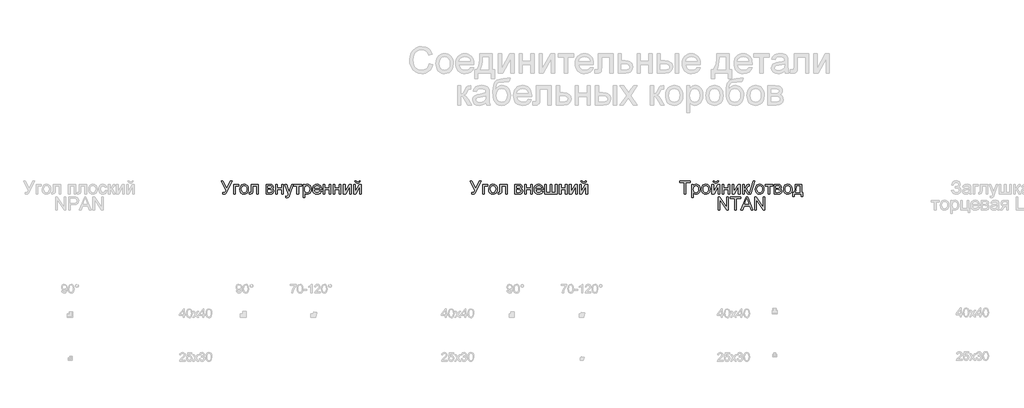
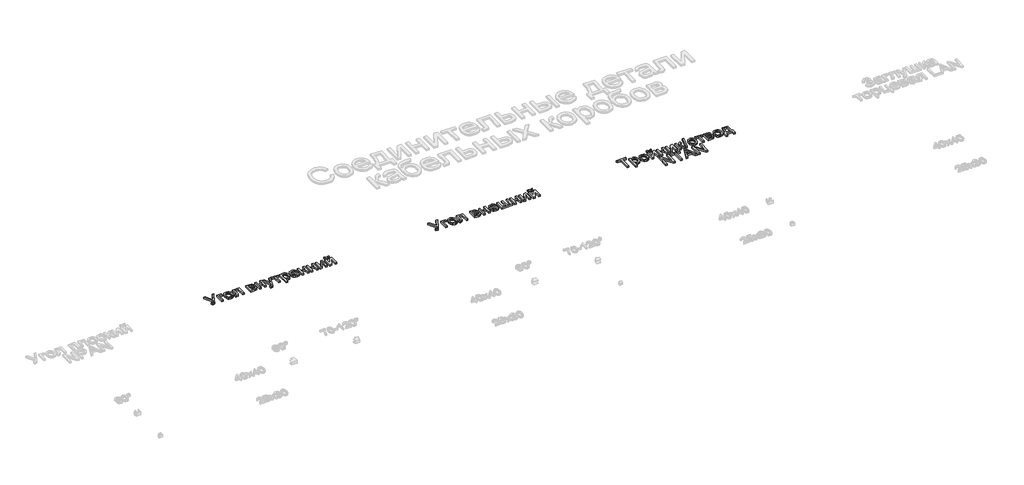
# One storey, part 25 of 28: 3 proxies.
"""IFC4 building model written with IfcOpenShell, lengths in millimetres."""

from ifc_helpers import new_model, si_unit, origin, origin_with_axes, place, context, project, spatial, polyline, outline, extrude, element, save

model = new_model("IFC4")

# Units and contexts
model_context = context("Model", 3, world=origin())
ifc_project = project(units=[si_unit("LENGTHUNIT", "METRE", prefix="MILLI")], contexts=[model_context])

# Site, building, storey
site = spatial("IfcSite", under=ifc_project)
building = spatial("IfcBuilding", under=site)
storey = spatial("IfcBuildingStorey", under=building, Name="Этаж 01", Elevation=0.0)

# Proxies
placement = place(None, origin())
element("IfcBuildingElementProxy", 1, Name="150 мм Arial", ObjectType="150 мм Arial", at=placement, inside=storey, context=model_context, shape_type="SweptSolid", body=[
    extrude(outline(polyline([(15533.6805136, 4604.2826486), (15554.5394228, 4604.2826486), (15599.6049672, 4515.0344766), (15640.1455631, 4604.2826486), (15660.8205312, 4604.2826486), (15603.6148809, 4486.8915039), (15588.0534725, 4458.0495555), (15580.6682415, 4452.9451928), (15570.6526542, 4451.2437386), (15553.6932942, 4453.5981834), (15553.6932942, 4470.0792968), (15568.5189386, 4470.0792968), (15579.5186102, 4474.2731515), (15589.7089415, 4493.3662271), (15533.6805136, 4604.2826486)])), origin_with_axes(), (0.0, 0.0, 1.0), 20.0),
    extrude(outline(polyline([(15676.1244222, 4564.2570875), (15737.3399862, 4564.2570875), (15737.3399862, 4545.4215294), (15694.9599803, 4545.4215294), (15694.9599803, 4453.5981834), (15676.1244222, 4453.5981834), (15676.1244222, 4564.2570875)])), origin_with_axes(), (0.0, 0.0, 1.0), 20.0),
    extrude(outline(polyline([(15746.7577653, 4508.9276355), (15750.8320584, 4535.6082772), (15763.0549376, 4554.3610619), (15778.1564935, 4563.5489147), (15796.2378936, 4566.6115323), (15816.0253464, 4562.8821286), (15831.8304766, 4551.6939174), (15842.1909533, 4533.9298155), (15845.6444456, 4510.4727398), (15844.1177353, 4491.4440436), (15839.5376044, 4476.9586901), (15832.0374103, 4466.1107697), (15821.75051, 4457.9943732), (15809.5322292, 4452.9313973), (15796.2378936, 4451.2437386), (15776.2113175, 4454.9593468), (15760.4245814, 4466.1061712), (15750.1744693, 4484.2427536), (15746.7577653, 4508.9276355)]), holes=[polyline([(15765.5933234, 4508.9644237), (15767.7730242, 4491.9176917), (15774.3121267, 4479.7729873), (15784.1529701, 4472.5027194), (15796.2378936, 4470.0792968), (15808.2676348, 4472.516515), (15818.0900841, 4479.8281696), (15824.6291866, 4492.1338224), (15826.8088874, 4509.5530348), (15824.615391, 4526.1031261), (15818.0349018, 4538.0822836), (15808.198657, 4545.3525515), (15796.2378936, 4547.7759741), (15784.1529701, 4545.3617485), (15774.3121267, 4538.1190718), (15767.7730242, 4526.0019586), (15765.5933234, 4508.9644237)])]), origin_with_axes(), (0.0, 0.0, 1.0), 20.0),
    extrude(outline(polyline([(15876.2522276, 4564.2570875), (15961.0122392, 4564.2570875), (15961.0122392, 4453.708548), (15942.1766811, 4453.708548), (15942.1766811, 4545.4215294), (15895.0877857, 4545.4215294), (15895.0877857, 4492.6304631), (15893.8185928, 4468.276675), (15886.847229, 4457.9943732), (15870.3661156, 4453.5981834), (15855.0622246, 4454.5546766), (15855.0622246, 4472.4337415), (15863.4867223, 4472.4337415), (15872.0031905, 4473.5925698), (15875.406099, 4477.2713898), (15876.2522276, 4493.6973209), (15876.2522276, 4564.2570875)])), origin_with_axes(), (0.0, 0.0, 1.0), 20.0),
    extrude(outline(polyline([(16048.1266957, 4564.2570875), (16089.6237848, 4564.2570875), (16112.3772862, 4561.7370959), (16125.1795796, 4552.5032578), (16130.5322626, 4536.4084205), (16127.2949011, 4523.3302156), (16117.5460282, 4514.004407), (16130.2011688, 4503.7956816), (16135.2411522, 4486.0453754), (16132.0497759, 4471.6887805), (16124.4622097, 4461.5812227), (16112.4508626, 4455.5939432), (16095.9881433, 4453.5981834), (16048.1266957, 4453.5981834), (16048.1266957, 4564.2570875)]), holes=[polyline([(16066.9622539, 4521.8770817), (16085.5770828, 4521.8770817), (16100.9361561, 4522.8335749), (16108.4041606, 4526.6595476), (16111.6967045, 4533.5757291), (16110.2527676, 4539.1951266), (16105.9209571, 4542.8095672), (16086.165694, 4545.4215294), (16066.9622539, 4545.4215294), (16066.9622539, 4521.8770817)]), polyline([(16066.9622539, 4472.4337415), (16090.0652432, 4472.4337415), (16110.5562703, 4475.83665), (16114.7961103, 4480.4765616), (16116.405594, 4487.5904797), (16113.1866265, 4496.6587709), (16104.7989171, 4501.9378775), (16088.2258332, 4503.0415235), (16066.9622539, 4503.0415235), (16066.9622539, 4472.4337415)])]), origin_with_axes(), (0.0, 0.0, 1.0), 20.0),
    extrude(outline(polyline([(16158.7855999, 4564.2570875), (16177.621158, 4564.2570875), (16177.621158, 4521.8770817), (16227.0644982, 4521.8770817), (16227.0644982, 4564.2570875), (16245.9000563, 4564.2570875), (16245.9000563, 4453.5981834), (16227.0644982, 4453.5981834), (16227.0644982, 4503.0415235), (16177.621158, 4503.0415235), (16177.621158, 4453.5981834), (16158.7855999, 4453.5981834), (16158.7855999, 4564.2570875)])), origin_with_axes(), (0.0, 0.0, 1.0), 20.0),
    extrude(outline(polyline([(16274.1533935, 4411.2181775), (16271.7989488, 4429.3547599), (16281.3638806, 4427.6992909), (16290.3034131, 4429.7778242), (16295.7848549, 4435.5719656), (16300.9352028, 4449.4411168), (16302.4067308, 4454.0028536), (16262.3811697, 4564.2570875), (16282.2467974, 4564.2570875), (16303.4735886, 4502.8207943), (16310.8680167, 4478.2462771), (16318.2624448, 4499.9513148), (16340.0778471, 4564.2570875), (16359.796322, 4564.2570875), (16321.2790771, 4450.949433), (16311.2726869, 4426.3749157), (16300.3465916, 4413.0943757), (16285.6681, 4408.8637328), (16274.1533935, 4411.2181775)])), origin_with_axes(), (0.0, 0.0, 1.0), 20.0),
    extrude(outline(polyline([(16365.9767395, 4564.2570875), (16455.4456408, 4564.2570875), (16455.4456408, 4545.4215294), (16420.1289692, 4545.4215294), (16420.1289692, 4453.5981834), (16401.2934111, 4453.5981834), (16401.2934111, 4545.4215294), (16365.9767395, 4545.4215294), (16365.9767395, 4564.2570875)])), origin_with_axes(), (0.0, 0.0, 1.0), 20.0),
    extrude(outline(polyline([(16471.9267541, 4411.2181775), (16471.9267541, 4564.2570875), (16490.7623123, 4564.2570875), (16490.7623123, 4545.7894114), (16503.7853349, 4561.4060021), (16521.3700943, 4566.6115323), (16534.1080084, 4564.7905164), (16545.2456358, 4559.3274688), (16554.313927, 4550.5534832), (16560.8438324, 4538.7996535), (16566.1045449, 4509.773764), (16564.6192214, 4493.6651312), (16560.1632507, 4479.2579525), (16552.8791872, 4467.2833936), (16542.9095851, 4458.4726198), (16531.2983096, 4453.0509589), (16519.0892259, 4451.2437386), (16502.700083, 4456.0813868), (16490.7623123, 4468.3134632), (16490.7623123, 4411.2181775), (16471.9267541, 4411.2181775)]), holes=[polyline([(16490.7623123, 4508.0447187), (16492.7994588, 4491.1589351), (16498.9108985, 4479.349923), (16507.9286059, 4472.3969533), (16518.6845557, 4470.0792968), (16529.6152495, 4472.4797268), (16538.8628832, 4479.6810168), (16545.1674609, 4491.9222902), (16547.2689868, 4509.4426702), (16545.2180446, 4526.2364833), (16539.0652183, 4538.2110423), (16530.0613064, 4545.3847412), (16519.4571079, 4547.7759741), (16508.8115227, 4545.2329899), (16499.4627215, 4537.604037), (16492.9374146, 4525.1282388), (16490.7623123, 4508.0447187)])]), origin_with_axes(), (0.0, 0.0, 1.0), 20.0),
    extrude(outline(polyline([(16664.770496, 4486.5604101), (16683.2381722, 4484.2059654), (16676.5841066, 4470.2908289), (16665.9661125, 4459.8889655), (16651.6233132, 4453.4050453), (16633.794832, 4451.2437386), (16611.6943212, 4454.9731423), (16594.6889759, 4466.1613535), (16583.8456541, 4484.0818052), (16580.2312135, 4508.0079305), (16583.8824423, 4532.7387976), (16594.8361287, 4551.2340649), (16611.6115477, 4562.7671654), (16632.7279742, 4566.6115323), (16653.1868117, 4562.7763625), (16669.5345679, 4551.2708531), (16680.2537295, 4532.812374), (16683.8267834, 4508.1182951), (16683.7164188, 4503.0415235), (16599.0667717, 4503.0415235), (16602.3271259, 4488.9424461), (16609.9008964, 4478.5773708), (16620.8315902, 4472.2038153), (16634.162714, 4470.0792968), (16652.6303902, 4474.0156341), (16664.770496, 4486.5604101)]), holes=[polyline([(16599.0667717, 4521.8770817), (16664.9912252, 4521.8770817), (16662.4436424, 4531.8282897), (16657.4496443, 4538.9468063), (16646.4683668, 4545.5686822), (16632.6543978, 4547.7759741), (16619.9578705, 4546.0147391), (16609.459438, 4540.7310339), (16602.161579, 4532.4950758), (16599.0667717, 4521.8770817)])]), origin_with_axes(), (0.0, 0.0, 1.0), 20.0),
    extrude(outline(polyline([(16702.6623415, 4564.2570875), (16721.4978997, 4564.2570875), (16721.4978997, 4521.8770817), (16770.9412398, 4521.8770817), (16770.9412398, 4564.2570875), (16789.776798, 4564.2570875), (16789.776798, 4453.5981834), (16770.9412398, 4453.5981834), (16770.9412398, 4503.0415235), (16721.4978997, 4503.0415235), (16721.4978997, 4453.5981834), (16702.6623415, 4453.5981834), (16702.6623415, 4564.2570875)])), origin_with_axes(), (0.0, 0.0, 1.0), 20.0),
    extrude(outline(polyline([(16818.0301352, 4564.2570875), (16836.8656934, 4564.2570875), (16836.8656934, 4521.8770817), (16886.3090335, 4521.8770817), (16886.3090335, 4564.2570875), (16905.1445917, 4564.2570875), (16905.1445917, 4453.5981834), (16886.3090335, 4453.5981834), (16886.3090335, 4503.0415235), (16836.8656934, 4503.0415235), (16836.8656934, 4453.5981834), (16818.0301352, 4453.5981834), (16818.0301352, 4564.2570875)])), origin_with_axes(), (0.0, 0.0, 1.0), 20.0),
    extrude(outline(polyline([(16933.3979289, 4564.2570875), (16952.233487, 4564.2570875), (16952.233487, 4479.8649578), (16998.513042, 4564.2570875), (17022.8668301, 4564.2570875), (17022.8668301, 4453.5981834), (17004.031272, 4453.5981834), (17004.031272, 4537.4752783), (16958.0460226, 4453.5981834), (16933.3979289, 4453.5981834), (16933.3979289, 4564.2570875)])), origin_with_axes(), (0.0, 0.0, 1.0), 20.0),
    extrude(outline(polyline([(17051.1201674, 4564.2570875), (17069.9557255, 4564.2570875), (17069.9557255, 4479.8649578), (17116.2352805, 4564.2570875), (17140.5890686, 4564.2570875), (17140.5890686, 4453.5981834), (17121.7535104, 4453.5981834), (17121.7535104, 4537.4752783), (17075.768261, 4453.5981834), (17051.1201674, 4453.5981834), (17051.1201674, 4564.2570875)])), origin_with_axes(), (0.0, 0.0, 1.0), 20.0),
    extrude(outline(polyline([(17112.3357314, 4604.2826486), (17126.4624, 4604.2826486), (17123.422775, 4592.2207177), (17117.3205324, 4583.331769), (17108.4315837, 4577.8549258), (17097.0318404, 4576.0293114), (17084.6618083, 4577.8411302), (17075.0692852, 4583.2765867), (17068.5117887, 4592.1517398), (17065.246836, 4604.2826486), (17079.3735046, 4604.2826486), (17084.6710053, 4593.669253), (17095.3395832, 4590.15598), (17107.0382306, 4593.5588884), (17112.3357314, 4604.2826486)])), origin_with_axes(), (0.0, 0.0, 1.0), 20.0),
])
element("IfcBuildingElementProxy", 2, Name="150 мм Arial", ObjectType="150 мм Arial", at=placement, inside=storey, context=model_context, shape_type="SweptSolid", body=[
    extrude(outline(polyline([(18384.3521983, 4604.2826486), (18405.2111075, 4604.2826486), (18450.2766519, 4515.0344766), (18490.8172477, 4604.2826486), (18511.4922159, 4604.2826486), (18454.2865656, 4486.8915039), (18438.7251572, 4458.0495555), (18431.3399262, 4452.9451928), (18421.3243388, 4451.2437386), (18404.3649789, 4453.5981834), (18404.3649789, 4470.0792968), (18419.1906233, 4470.0792968), (18430.1902949, 4474.2731515), (18440.3806262, 4493.3662271), (18384.3521983, 4604.2826486)])), origin_with_axes(), (0.0, 0.0, 1.0), 20.0),
    extrude(outline(polyline([(18526.7961069, 4564.2570875), (18588.0116709, 4564.2570875), (18588.0116709, 4545.4215294), (18545.631665, 4545.4215294), (18545.631665, 4453.5981834), (18526.7961069, 4453.5981834), (18526.7961069, 4564.2570875)])), origin_with_axes(), (0.0, 0.0, 1.0), 20.0),
    extrude(outline(polyline([(18597.4294499, 4508.9276355), (18601.503743, 4535.6082772), (18613.7266223, 4554.3610619), (18628.8281782, 4563.5489147), (18646.9095783, 4566.6115323), (18666.6970311, 4562.8821286), (18682.5021613, 4551.6939174), (18692.862638, 4533.9298155), (18696.3161302, 4510.4727398), (18694.78942, 4491.4440436), (18690.2092891, 4476.9586901), (18682.7090949, 4466.1107697), (18672.4221947, 4457.9943732), (18660.2039139, 4452.9313973), (18646.9095783, 4451.2437386), (18626.8830022, 4454.9593468), (18611.0962661, 4466.1061712), (18600.846154, 4484.2427536), (18597.4294499, 4508.9276355)]), holes=[polyline([(18616.2650081, 4508.9644237), (18618.4447089, 4491.9176917), (18624.9838114, 4479.7729873), (18634.8246548, 4472.5027194), (18646.9095783, 4470.0792968), (18658.9393195, 4472.516515), (18668.7617688, 4479.8281696), (18675.3008713, 4492.1338224), (18677.4805721, 4509.5530348), (18675.2870757, 4526.1031261), (18668.7065865, 4538.0822836), (18658.8703417, 4545.3525515), (18646.9095783, 4547.7759741), (18634.8246548, 4545.3617485), (18624.9838114, 4538.1190718), (18618.4447089, 4526.0019586), (18616.2650081, 4508.9644237)])]), origin_with_axes(), (0.0, 0.0, 1.0), 20.0),
    extrude(outline(polyline([(18726.9239122, 4564.2570875), (18811.6839239, 4564.2570875), (18811.6839239, 4453.708548), (18792.8483658, 4453.708548), (18792.8483658, 4545.4215294), (18745.7594704, 4545.4215294), (18745.7594704, 4492.6304631), (18744.4902775, 4468.276675), (18737.5189137, 4457.9943732), (18721.0378003, 4453.5981834), (18705.7339093, 4454.5546766), (18705.7339093, 4472.4337415), (18714.158407, 4472.4337415), (18722.6748752, 4473.5925698), (18726.0777837, 4477.2713898), (18726.9239122, 4493.6973209), (18726.9239122, 4564.2570875)])), origin_with_axes(), (0.0, 0.0, 1.0), 20.0),
    extrude(outline(polyline([(18898.7983804, 4564.2570875), (18940.2954694, 4564.2570875), (18963.0489708, 4561.7370959), (18975.8512643, 4552.5032578), (18981.2039473, 4536.4084205), (18977.9665858, 4523.3302156), (18968.2177129, 4514.004407), (18980.8728535, 4503.7956816), (18985.9128368, 4486.0453754), (18982.7214605, 4471.6887805), (18975.1338944, 4461.5812227), (18963.1225472, 4455.5939432), (18946.659828, 4453.5981834), (18898.7983804, 4453.5981834), (18898.7983804, 4564.2570875)]), holes=[polyline([(18917.6339385, 4521.8770817), (18936.2487675, 4521.8770817), (18951.6078408, 4522.8335749), (18959.0758453, 4526.6595476), (18962.3683892, 4533.5757291), (18960.9244523, 4539.1951266), (18956.5926418, 4542.8095672), (18936.8373787, 4545.4215294), (18917.6339385, 4545.4215294), (18917.6339385, 4521.8770817)]), polyline([(18917.6339385, 4472.4337415), (18940.7369278, 4472.4337415), (18961.227955, 4475.83665), (18965.467795, 4480.4765616), (18967.0772787, 4487.5904797), (18963.8583112, 4496.6587709), (18955.4706017, 4501.9378775), (18938.8975179, 4503.0415235), (18917.6339385, 4503.0415235), (18917.6339385, 4472.4337415)])]), origin_with_axes(), (0.0, 0.0, 1.0), 20.0),
    extrude(outline(polyline([(19009.4572845, 4564.2570875), (19028.2928427, 4564.2570875), (19028.2928427, 4521.8770817), (19077.7361828, 4521.8770817), (19077.7361828, 4564.2570875), (19096.571741, 4564.2570875), (19096.571741, 4453.5981834), (19077.7361828, 4453.5981834), (19077.7361828, 4503.0415235), (19028.2928427, 4503.0415235), (19028.2928427, 4453.5981834), (19009.4572845, 4453.5981834), (19009.4572845, 4564.2570875)])), origin_with_axes(), (0.0, 0.0, 1.0), 20.0),
    extrude(outline(polyline([(19202.3010264, 4486.5604101), (19220.7687026, 4484.2059654), (19214.114637, 4470.2908289), (19203.4966429, 4459.8889655), (19189.1538436, 4453.4050453), (19171.3253624, 4451.2437386), (19149.2248516, 4454.9731423), (19132.2195063, 4466.1613535), (19121.3761845, 4484.0818052), (19117.7617439, 4508.0079305), (19121.4129727, 4532.7387976), (19132.3666591, 4551.2340649), (19149.1420781, 4562.7671654), (19170.2585046, 4566.6115323), (19190.7173421, 4562.7763625), (19207.0650982, 4551.2708531), (19217.7842599, 4532.812374), (19221.3573138, 4508.1182951), (19221.2469492, 4503.0415235), (19136.5973021, 4503.0415235), (19139.8576563, 4488.9424461), (19147.4314268, 4478.5773708), (19158.3621206, 4472.2038153), (19171.6932444, 4470.0792968), (19190.1609206, 4474.0156341), (19202.3010264, 4486.5604101)]), holes=[polyline([(19136.5973021, 4521.8770817), (19202.5217556, 4521.8770817), (19199.9741728, 4531.8282897), (19194.9801747, 4538.9468063), (19183.9988972, 4545.5686822), (19170.1849282, 4547.7759741), (19157.4884009, 4546.0147391), (19146.9899684, 4540.7310339), (19139.6921094, 4532.4950758), (19136.5973021, 4521.8770817)])]), origin_with_axes(), (0.0, 0.0, 1.0), 20.0),
    extrude(outline(polyline([(19240.1928719, 4564.2570875), (19259.0284301, 4564.2570875), (19259.0284301, 4472.4337415), (19301.4084359, 4472.4337415), (19301.4084359, 4564.2570875), (19320.2439941, 4564.2570875), (19320.2439941, 4472.4337415), (19362.6239999, 4472.4337415), (19362.6239999, 4564.2570875), (19381.4595581, 4564.2570875), (19381.4595581, 4453.5981834), (19240.1928719, 4453.5981834), (19240.1928719, 4564.2570875)])), origin_with_axes(), (0.0, 0.0, 1.0), 20.0),
    extrude(outline(polyline([(19407.3584505, 4564.2570875), (19426.1940087, 4564.2570875), (19426.1940087, 4521.8770817), (19475.6373488, 4521.8770817), (19475.6373488, 4564.2570875), (19494.472907, 4564.2570875), (19494.472907, 4453.5981834), (19475.6373488, 4453.5981834), (19475.6373488, 4503.0415235), (19426.1940087, 4503.0415235), (19426.1940087, 4453.5981834), (19407.3584505, 4453.5981834), (19407.3584505, 4564.2570875)])), origin_with_axes(), (0.0, 0.0, 1.0), 20.0),
    extrude(outline(polyline([(19522.7262442, 4564.2570875), (19541.5618024, 4564.2570875), (19541.5618024, 4479.8649578), (19587.8413574, 4564.2570875), (19612.1951454, 4564.2570875), (19612.1951454, 4453.5981834), (19593.3595873, 4453.5981834), (19593.3595873, 4537.4752783), (19547.3743379, 4453.5981834), (19522.7262442, 4453.5981834), (19522.7262442, 4564.2570875)])), origin_with_axes(), (0.0, 0.0, 1.0), 20.0),
    extrude(outline(polyline([(19640.4484827, 4564.2570875), (19659.2840408, 4564.2570875), (19659.2840408, 4479.8649578), (19705.5635958, 4564.2570875), (19729.9173839, 4564.2570875), (19729.9173839, 4453.5981834), (19711.0818257, 4453.5981834), (19711.0818257, 4537.4752783), (19665.0965763, 4453.5981834), (19640.4484827, 4453.5981834), (19640.4484827, 4564.2570875)])), origin_with_axes(), (0.0, 0.0, 1.0), 20.0),
    extrude(outline(polyline([(19701.6640467, 4604.2826486), (19715.7907153, 4604.2826486), (19712.7510903, 4592.2207177), (19706.6488477, 4583.331769), (19697.759899, 4577.8549258), (19686.3601557, 4576.0293114), (19673.9901236, 4577.8411302), (19664.3976006, 4583.2765867), (19657.840104, 4592.1517398), (19654.5751513, 4604.2826486), (19668.7018199, 4604.2826486), (19673.9993206, 4593.669253), (19684.6678985, 4590.15598), (19696.3665459, 4593.5588884), (19701.6640467, 4604.2826486)])), origin_with_axes(), (0.0, 0.0, 1.0), 20.0),
])
element("IfcBuildingElementProxy", 3, Name="150 мм Arial", ObjectType="150 мм Arial", at=placement, inside=storey, context=model_context, shape_type="SweptSolid", body=[
    extrude(outline(polyline([(20836.8810542, 4453.5981834), (20836.8810542, 4585.4470904), (20787.4377141, 4585.4470904), (20787.4377141, 4604.2826486), (20905.1599525, 4604.2826486), (20905.1599525, 4585.4470904), (20855.7166124, 4585.4470904), (20855.7166124, 4453.5981834), (20836.8810542, 4453.5981834)])), origin_with_axes(), (0.0, 0.0, 1.0), 20.0),
    extrude(outline(polyline([(20923.9955107, 4411.2181775), (20923.9955107, 4564.2570875), (20942.8310688, 4564.2570875), (20942.8310688, 4545.7894114), (20955.8540915, 4561.4060021), (20973.4388508, 4566.6115323), (20986.1767649, 4564.7905164), (20997.3143923, 4559.3274688), (21006.3826835, 4550.5534832), (21012.9125889, 4538.7996535), (21018.1733014, 4509.773764), (21016.6879779, 4493.6651312), (21012.2320072, 4479.2579525), (21004.9479437, 4467.2833936), (20994.9783416, 4458.4726198), (20983.3670662, 4453.0509589), (20971.1579825, 4451.2437386), (20954.7688396, 4456.0813868), (20942.8310688, 4468.3134632), (20942.8310688, 4411.2181775), (20923.9955107, 4411.2181775)]), holes=[polyline([(20942.8310688, 4508.0447187), (20944.8682154, 4491.1589351), (20950.979655, 4479.349923), (20959.9973624, 4472.3969533), (20970.7533123, 4470.0792968), (20981.684006, 4472.4797268), (20990.9316397, 4479.6810168), (20997.2362174, 4491.9222902), (20999.3377433, 4509.4426702), (20997.2868012, 4526.2364833), (20991.1339748, 4538.2110423), (20982.130063, 4545.3847412), (20971.5258644, 4547.7759741), (20960.8802792, 4545.2329899), (20951.531478, 4537.604037), (20945.0061711, 4525.1282388), (20942.8310688, 4508.0447187)])]), origin_with_axes(), (0.0, 0.0, 1.0), 20.0),
    extrude(outline(polyline([(21034.6544148, 4508.9276355), (21038.7287079, 4535.6082772), (21050.9515872, 4554.3610619), (21066.0531431, 4563.5489147), (21084.1345432, 4566.6115323), (21103.921996, 4562.8821286), (21119.7271262, 4551.6939174), (21130.0876029, 4533.9298155), (21133.5410951, 4510.4727398), (21132.0143848, 4491.4440436), (21127.434254, 4476.9586901), (21119.9340598, 4466.1107697), (21109.6471595, 4457.9943732), (21097.4288788, 4452.9313973), (21084.1345432, 4451.2437386), (21064.1079671, 4454.9593468), (21048.3212309, 4466.1061712), (21038.0711189, 4484.2427536), (21034.6544148, 4508.9276355)]), holes=[polyline([(21053.489973, 4508.9644237), (21055.6696738, 4491.9176917), (21062.2087763, 4479.7729873), (21072.0496196, 4472.5027194), (21084.1345432, 4470.0792968), (21096.1642844, 4472.516515), (21105.9867337, 4479.8281696), (21112.5258362, 4492.1338224), (21114.705537, 4509.5530348), (21112.5120406, 4526.1031261), (21105.9315514, 4538.0822836), (21096.0953065, 4545.3525515), (21084.1345432, 4547.7759741), (21072.0496196, 4545.3617485), (21062.2087763, 4538.1190718), (21055.6696738, 4526.0019586), (21053.489973, 4508.9644237)])]), origin_with_axes(), (0.0, 0.0, 1.0), 20.0),
    extrude(outline(polyline([(21215.946662, 4604.2826486), (21230.0733307, 4604.2826486), (21227.0337057, 4592.2207177), (21220.9314631, 4583.331769), (21212.0425144, 4577.8549258), (21200.642771, 4576.0293114), (21188.272739, 4577.8411302), (21178.6802159, 4583.2765867), (21172.1227194, 4592.1517398), (21168.8577667, 4604.2826486), (21182.9844353, 4604.2826486), (21188.281936, 4593.669253), (21198.9505139, 4590.15598), (21210.6491613, 4593.5588884), (21215.946662, 4604.2826486)])), origin_with_axes(), (0.0, 0.0, 1.0), 20.0),
    extrude(outline(polyline([(21154.731098, 4564.2570875), (21173.5666562, 4564.2570875), (21173.5666562, 4479.8649578), (21219.8462112, 4564.2570875), (21244.1999993, 4564.2570875), (21244.1999993, 4453.5981834), (21225.3644411, 4453.5981834), (21225.3644411, 4537.4752783), (21179.3791917, 4453.5981834), (21154.731098, 4453.5981834), (21154.731098, 4564.2570875)])), origin_with_axes(), (0.0, 0.0, 1.0), 20.0),
    extrude(outline(polyline([(21272.4533365, 4564.2570875), (21291.2888947, 4564.2570875), (21291.2888947, 4521.8770817), (21340.7322348, 4521.8770817), (21340.7322348, 4564.2570875), (21359.567793, 4564.2570875), (21359.567793, 4453.5981834), (21340.7322348, 4453.5981834), (21340.7322348, 4503.0415235), (21291.2888947, 4503.0415235), (21291.2888947, 4453.5981834), (21272.4533365, 4453.5981834), (21272.4533365, 4564.2570875)])), origin_with_axes(), (0.0, 0.0, 1.0), 20.0),
    extrude(outline(polyline([(21387.8211302, 4564.2570875), (21406.6566883, 4564.2570875), (21406.6566883, 4479.8649578), (21452.9362433, 4564.2570875), (21477.2900314, 4564.2570875), (21477.2900314, 4453.5981834), (21458.4544733, 4453.5981834), (21458.4544733, 4537.4752783), (21412.4692239, 4453.5981834), (21387.8211302, 4453.5981834), (21387.8211302, 4564.2570875)])), origin_with_axes(), (0.0, 0.0, 1.0), 20.0),
    extrude(outline(polyline([(21564.1837587, 4453.5981834), (21544.4284955, 4487.5536915), (21534.4956817, 4501.9194834), (21524.3789268, 4505.3959683), (21524.3789268, 4453.5981834), (21505.5433686, 4453.5981834), (21505.5433686, 4564.2570875), (21524.3789268, 4564.2570875), (21524.3789268, 4517.1681921), (21536.9972792, 4520.5527065), (21547.3347633, 4540.2711814), (21555.9248079, 4557.2857237), (21563.503177, 4562.8223477), (21577.2803577, 4564.2570875), (21580.8856013, 4564.2570875), (21580.8856013, 4545.3111648), (21575.8088297, 4545.4215294), (21566.6117798, 4543.4349666), (21560.1370567, 4531.0373434), (21552.5402935, 4517.6280446), (21541.8901098, 4511.061351), (21553.7726982, 4503.7313023), (21565.4345575, 4488.2894555), (21584.0079119, 4456.328373), (21625.6200519, 4604.2826486), (21642.6162001, 4604.2826486), (21600.2361942, 4453.5981834), (21585.5944908, 4453.5981834), (21583.240046, 4453.5981834), (21564.1837587, 4453.5981834)])), origin_with_axes(), (0.0, 0.0, 1.0), 20.0),
    extrude(outline(polyline([(21651.5189443, 4508.9276355), (21655.5932374, 4535.6082772), (21667.8161167, 4554.3610619), (21682.9176726, 4563.5489147), (21700.9990727, 4566.6115323), (21720.7865255, 4562.8821286), (21736.5916557, 4551.6939174), (21746.9521324, 4533.9298155), (21750.4056246, 4510.4727398), (21748.8789144, 4491.4440436), (21744.2987835, 4476.9586901), (21736.7985893, 4466.1107697), (21726.5116891, 4457.9943732), (21714.2934083, 4452.9313973), (21700.9990727, 4451.2437386), (21680.9724966, 4454.9593468), (21665.1857605, 4466.1061712), (21654.9356484, 4484.2427536), (21651.5189443, 4508.9276355)]), holes=[polyline([(21670.3545025, 4508.9644237), (21672.5342033, 4491.9176917), (21679.0733058, 4479.7729873), (21688.9141491, 4472.5027194), (21700.9990727, 4470.0792968), (21713.0288139, 4472.516515), (21722.8512632, 4479.8281696), (21729.3903657, 4492.1338224), (21731.5700665, 4509.5530348), (21729.3765701, 4526.1031261), (21722.7960809, 4538.0822836), (21712.9598361, 4545.3525515), (21700.9990727, 4547.7759741), (21688.9141491, 4545.3617485), (21679.0733058, 4538.1190718), (21672.5342033, 4526.0019586), (21670.3545025, 4508.9644237)])]), origin_with_axes(), (0.0, 0.0, 1.0), 20.0),
    extrude(outline(polyline([(21762.1778485, 4564.2570875), (21851.6467497, 4564.2570875), (21851.6467497, 4545.4215294), (21816.3300782, 4545.4215294), (21816.3300782, 4453.5981834), (21797.49452, 4453.5981834), (21797.49452, 4545.4215294), (21762.1778485, 4545.4215294), (21762.1778485, 4564.2570875)])), origin_with_axes(), (0.0, 0.0, 1.0), 20.0),
    extrude(outline(polyline([(21868.1278631, 4564.2570875), (21909.6249521, 4564.2570875), (21932.3784536, 4561.7370959), (21945.180747, 4552.5032578), (21950.53343, 4536.4084205), (21947.2960685, 4523.3302156), (21937.5471956, 4514.004407), (21950.2023362, 4503.7956816), (21955.2423196, 4486.0453754), (21952.0509432, 4471.6887805), (21944.4633771, 4461.5812227), (21932.45203, 4455.5939432), (21915.9893107, 4453.5981834), (21868.1278631, 4453.5981834), (21868.1278631, 4564.2570875)]), holes=[polyline([(21886.9634212, 4521.8770817), (21905.5782502, 4521.8770817), (21920.9373235, 4522.8335749), (21928.405328, 4526.6595476), (21931.6978719, 4533.5757291), (21930.253935, 4539.1951266), (21925.9221245, 4542.8095672), (21906.1668614, 4545.4215294), (21886.9634212, 4545.4215294), (21886.9634212, 4521.8770817)]), polyline([(21886.9634212, 4472.4337415), (21910.0664105, 4472.4337415), (21930.5574377, 4475.83665), (21934.7972777, 4480.4765616), (21936.4067614, 4487.5904797), (21933.1877939, 4496.6587709), (21924.8000845, 4501.9378775), (21908.2270006, 4503.0415235), (21886.9634212, 4503.0415235), (21886.9634212, 4472.4337415)])]), origin_with_axes(), (0.0, 0.0, 1.0), 20.0),
    extrude(outline(polyline([(21974.0778777, 4508.9276355), (21978.1521708, 4535.6082772), (21990.3750501, 4554.3610619), (22005.476606, 4563.5489147), (22023.5580061, 4566.6115323), (22043.3454589, 4562.8821286), (22059.1505891, 4551.6939174), (22069.5110658, 4533.9298155), (22072.964558, 4510.4727398), (22071.4378477, 4491.4440436), (22066.8577169, 4476.9586901), (22059.3575227, 4466.1107697), (22049.0706224, 4457.9943732), (22036.8523417, 4452.9313973), (22023.5580061, 4451.2437386), (22003.5314299, 4454.9593468), (21987.7446938, 4466.1061712), (21977.4945817, 4484.2427536), (21974.0778777, 4508.9276355)]), holes=[polyline([(21992.9134359, 4508.9644237), (21995.0931367, 4491.9176917), (22001.6322391, 4479.7729873), (22011.4730825, 4472.5027194), (22023.5580061, 4470.0792968), (22035.5877473, 4472.516515), (22045.4101966, 4479.8281696), (22051.949299, 4492.1338224), (22054.1289999, 4509.5530348), (22051.9355035, 4526.1031261), (22045.3550143, 4538.0822836), (22035.5187694, 4545.3525515), (22023.5580061, 4547.7759741), (22011.4730825, 4545.3617485), (22001.6322391, 4538.1190718), (21995.0931367, 4526.0019586), (21992.9134359, 4508.9644237)])]), origin_with_axes(), (0.0, 0.0, 1.0), 20.0),
    extrude(outline(polyline([(22110.6356743, 4564.2570875), (22181.2690174, 4564.2570875), (22181.2690174, 4472.4337415), (22195.395686, 4472.4337415), (22195.395686, 4422.9904014), (22176.5601278, 4422.9904014), (22176.5601278, 4453.5981834), (22098.8634505, 4453.5981834), (22098.8634505, 4422.9904014), (22080.0278923, 4422.9904014), (22080.0278923, 4472.4337415), (22091.8001162, 4472.4337415), (22100.3579711, 4487.8985809), (22106.3498491, 4508.3574184), (22110.6356743, 4564.2570875)]), holes=[polyline([(22127.1167877, 4545.4215294), (22122.7022038, 4502.5080946), (22112.9901191, 4472.4337415), (22162.4334592, 4472.4337415), (22162.4334592, 4545.4215294), (22127.1167877, 4545.4215294)])]), origin_with_axes(), (0.0, 0.0, 1.0), 20.0),
    extrude(outline(polyline([(21225.3644411, 4270.6359566), (21225.3644411, 4421.3204218), (21245.5243745, 4421.3204218), (21324.2511214, 4301.9427144), (21324.2511214, 4421.3204218), (21343.0866796, 4421.3204218), (21343.0866796, 4270.6359566), (21322.9267462, 4270.6359566), (21244.1999993, 4390.0504522), (21244.1999993, 4270.6359566), (21225.3644411, 4270.6359566)])), origin_with_axes(), (0.0, 0.0, 1.0), 20.0),
    extrude(outline(polyline([(21413.7200227, 4270.6359566), (21413.7200227, 4402.4848637), (21364.2766825, 4402.4848637), (21364.2766825, 4421.3204218), (21481.998921, 4421.3204218), (21481.998921, 4402.4848637), (21432.5555808, 4402.4848637), (21432.5555808, 4270.6359566), (21413.7200227, 4270.6359566)])), origin_with_axes(), (0.0, 0.0, 1.0), 20.0),
    extrude(outline(polyline([(21485.6409527, 4270.6359566), (21545.7896589, 4421.3204218), (21561.8293139, 4421.3204218), (21621.9780201, 4270.6359566), (21602.0756042, 4270.6359566), (21584.8219386, 4317.724852), (21522.760246, 4317.724852), (21505.5433686, 4270.6359566), (21485.6409527, 4270.6359566)]), holes=[polyline([(21529.6764275, 4336.5604101), (21577.9425453, 4336.5604101), (21564.3676997, 4373.6061271), (21553.8094864, 4402.4848637), (21544.4284955, 4376.8434886), (21529.6764275, 4336.5604101)])]), origin_with_axes(), (0.0, 0.0, 1.0), 20.0),
    extrude(outline(polyline([(21642.1011653, 4270.6359566), (21642.1011653, 4421.3204218), (21662.2610986, 4421.3204218), (21740.9878456, 4301.9427144), (21740.9878456, 4421.3204218), (21759.8234037, 4421.3204218), (21759.8234037, 4270.6359566), (21739.6634704, 4270.6359566), (21660.9367234, 4390.0504522), (21660.9367234, 4270.6359566), (21642.1011653, 4270.6359566)])), origin_with_axes(), (0.0, 0.0, 1.0), 20.0),
])

save(model, "model.ifc")
